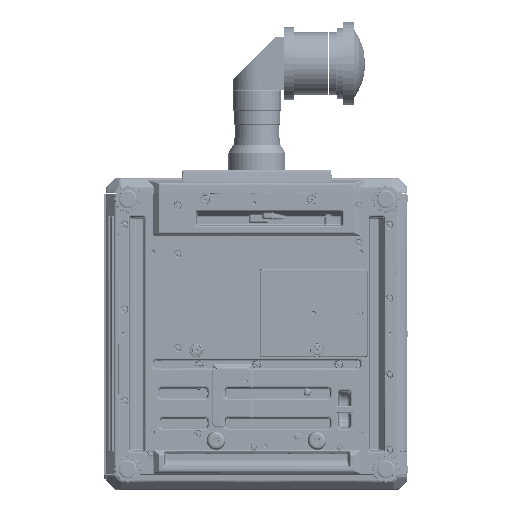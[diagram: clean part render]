
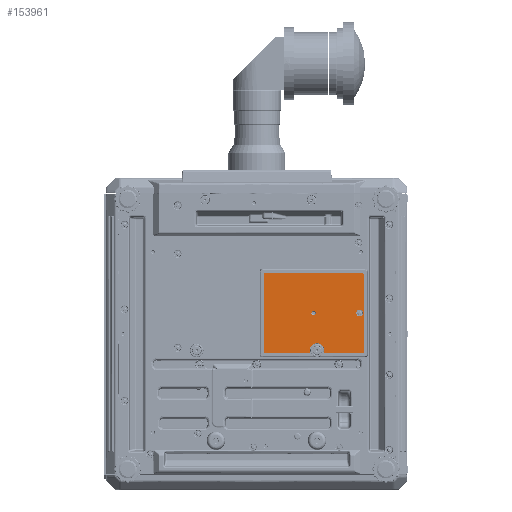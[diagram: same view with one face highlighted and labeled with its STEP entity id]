
A CAD part, front view. The second image highlights one B-rep face of the part: STEP entity #153961.
In plain terms, the highlighted planar face has unit normal (0, -1, 0).
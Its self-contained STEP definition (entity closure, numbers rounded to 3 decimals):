
#1032=ELLIPSE('',#323199,1.504,1.5);
#1033=ELLIPSE('',#323200,1.504,1.5);
#1034=ELLIPSE('',#323202,1.504,1.5);
#1035=ELLIPSE('',#323203,1.504,1.5);
#17031=B_SPLINE_CURVE_WITH_KNOTS('',3,(#457948,#457949,#457950,#457951,
#457952,#457953,#457954,#457955,#457956,#457957,#457958,#457959,#457960,
#457961,#457962,#457963,#457964,#457965,#457966),.UNSPECIFIED.,.F.,.F.,
(4,3,3,3,3,3,4),(0.,0.054,0.243,0.432,
0.621,0.811,1.),.UNSPECIFIED.);
#17032=B_SPLINE_CURVE_WITH_KNOTS('',3,(#457970,#457971,#457972,#457973,
#457974,#457975,#457976,#457977,#457978,#457979,#457980,#457981,#457982,
#457983,#457984,#457985,#457986,#457987,#457988),.UNSPECIFIED.,.F.,.F.,
(4,3,3,3,3,3,4),(0.,0.054,0.243,0.432,
0.621,0.811,1.),.UNSPECIFIED.);
#22756=PLANE('',#323204);
#39794=LINE('',#457937,#64510);
#39795=LINE('',#457942,#64511);
#39796=LINE('',#457946,#64512);
#39797=LINE('',#457990,#64513);
#39798=LINE('',#457994,#64514);
#64510=VECTOR('',#355327,1.);
#64511=VECTOR('',#355330,1.);
#64512=VECTOR('',#355333,1.);
#64513=VECTOR('',#355336,1.);
#64514=VECTOR('',#355339,1.);
#153961=ADVANCED_FACE('',(#163385,#163386,#163387),#22756,.F.);
#163385=FACE_BOUND('',#167030,.T.);
#163386=FACE_BOUND('',#167031,.T.);
#163387=FACE_BOUND('',#167032,.T.);
#167030=EDGE_LOOP('',(#188521));
#167031=EDGE_LOOP('',(#188522));
#167032=EDGE_LOOP('',(#188523,#188524,#188525,#188526,#188527,#188528,#188529,
#188530,#188531,#188532,#188533,#188534));
#188521=ORIENTED_EDGE('',*,*,#275534,.T.);
#188522=ORIENTED_EDGE('',*,*,#275535,.T.);
#188523=ORIENTED_EDGE('',*,*,#275536,.T.);
#188524=ORIENTED_EDGE('',*,*,#275537,.T.);
#188525=ORIENTED_EDGE('',*,*,#275538,.T.);
#188526=ORIENTED_EDGE('',*,*,#275539,.T.);
#188527=ORIENTED_EDGE('',*,*,#275540,.T.);
#188528=ORIENTED_EDGE('',*,*,#275541,.T.);
#188529=ORIENTED_EDGE('',*,*,#275542,.T.);
#188530=ORIENTED_EDGE('',*,*,#275543,.T.);
#188531=ORIENTED_EDGE('',*,*,#275544,.T.);
#188532=ORIENTED_EDGE('',*,*,#275545,.T.);
#188533=ORIENTED_EDGE('',*,*,#275546,.T.);
#188534=ORIENTED_EDGE('',*,*,#275547,.T.);
#238101=VERTEX_POINT('',#457933);
#238102=VERTEX_POINT('',#457936);
#238103=VERTEX_POINT('',#457938);
#238104=VERTEX_POINT('',#457939);
#238105=VERTEX_POINT('',#457941);
#238106=VERTEX_POINT('',#457943);
#238107=VERTEX_POINT('',#457945);
#238108=VERTEX_POINT('',#457947);
#238109=VERTEX_POINT('',#457967);
#238110=VERTEX_POINT('',#457969);
#238111=VERTEX_POINT('',#457989);
#238112=VERTEX_POINT('',#457991);
#238113=VERTEX_POINT('',#457993);
#238114=VERTEX_POINT('',#457995);
#275534=EDGE_CURVE('',#238101,#238101,#312295,.T.);
#275535=EDGE_CURVE('',#238102,#238102,#312296,.T.);
#275536=EDGE_CURVE('',#238103,#238104,#39794,.T.);
#275537=EDGE_CURVE('',#238104,#238105,#1032,.T.);
#275538=EDGE_CURVE('',#238105,#238106,#39795,.T.);
#275539=EDGE_CURVE('',#238106,#238107,#1033,.T.);
#275540=EDGE_CURVE('',#238107,#238108,#39796,.T.);
#275541=EDGE_CURVE('',#238108,#238109,#17031,.T.);
#275542=EDGE_CURVE('',#238109,#238110,#312297,.T.);
#275543=EDGE_CURVE('',#238110,#238111,#17032,.T.);
#275544=EDGE_CURVE('',#238111,#238112,#39797,.T.);
#275545=EDGE_CURVE('',#238112,#238113,#1034,.T.);
#275546=EDGE_CURVE('',#238113,#238114,#39798,.T.);
#275547=EDGE_CURVE('',#238114,#238103,#1035,.T.);
#312295=CIRCLE('',#323196,4.);
#312296=CIRCLE('',#323198,6.125);
#312297=CIRCLE('',#323201,13.358);
#323196=AXIS2_PLACEMENT_3D('',#457932,#355321,#355322);
#323198=AXIS2_PLACEMENT_3D('',#457935,#355325,#355326);
#323199=AXIS2_PLACEMENT_3D('',#457940,#355328,#355329);
#323200=AXIS2_PLACEMENT_3D('',#457944,#355331,#355332);
#323201=AXIS2_PLACEMENT_3D('',#457968,#355334,#355335);
#323202=AXIS2_PLACEMENT_3D('',#457992,#355337,#355338);
#323203=AXIS2_PLACEMENT_3D('',#457996,#355340,#355341);
#323204=AXIS2_PLACEMENT_3D('',#457997,#355342,#355343);
#355321=DIRECTION('',(0.,1.,0.));
#355322=DIRECTION('',(0.,0.,1.));
#355325=DIRECTION('',(0.,1.,0.));
#355326=DIRECTION('',(0.,0.,1.));
#355327=DIRECTION('',(-1.,0.,0.));
#355328=DIRECTION('',(0.,-1.,0.));
#355329=DIRECTION('',(0.707,0.,-0.707));
#355330=DIRECTION('',(0.,0.,-1.));
#355331=DIRECTION('',(0.,-1.,0.));
#355332=DIRECTION('',(-0.707,0.,-0.707));
#355333=DIRECTION('',(1.,0.,0.));
#355334=DIRECTION('',(0.,1.,0.));
#355335=DIRECTION('',(0.,0.,1.));
#355336=DIRECTION('',(1.,0.,0.));
#355337=DIRECTION('',(0.,-1.,0.));
#355338=DIRECTION('',(-0.707,0.,0.707));
#355339=DIRECTION('',(0.,0.,1.));
#355340=DIRECTION('',(0.,-1.,0.));
#355341=DIRECTION('',(-0.707,0.,-0.707));
#355342=DIRECTION('',(0.,1.,0.));
#355343=DIRECTION('',(0.,0.,1.));
#457932=CARTESIAN_POINT('',(103.8,-116.5,-1.5));
#457933=CARTESIAN_POINT('',(103.8,-116.5,2.5));
#457935=CARTESIAN_POINT('',(187.8,-116.5,-1.5));
#457936=CARTESIAN_POINT('',(187.8,-116.5,4.625));
#457937=CARTESIAN_POINT('',(110.,-116.5,71.642));
#457938=CARTESIAN_POINT('',(193.644,-116.5,71.642));
#457939=CARTESIAN_POINT('',(14.356,-116.5,71.642));
#457940=CARTESIAN_POINT('',(14.36,-116.5,70.14));
#457941=CARTESIAN_POINT('',(12.858,-116.5,70.144));
#457942=CARTESIAN_POINT('',(12.858,-116.5,-70.));
#457943=CARTESIAN_POINT('',(12.858,-116.5,-73.144));
#457944=CARTESIAN_POINT('',(14.36,-116.5,-73.14));
#457945=CARTESIAN_POINT('',(14.356,-116.5,-74.642));
#457946=CARTESIAN_POINT('',(110.,-116.5,-74.642));
#457947=CARTESIAN_POINT('',(95.481,-116.5,-74.642));
#457948=CARTESIAN_POINT('',(95.481,-116.5,-74.642));
#457949=CARTESIAN_POINT('',(95.529,-116.5,-74.642));
#457950=CARTESIAN_POINT('',(95.578,-116.5,-74.64));
#457951=CARTESIAN_POINT('',(95.627,-116.5,-74.635));
#457952=CARTESIAN_POINT('',(95.794,-116.5,-74.619));
#457953=CARTESIAN_POINT('',(95.96,-116.5,-74.574));
#457954=CARTESIAN_POINT('',(96.112,-116.5,-74.503));
#457955=CARTESIAN_POINT('',(96.264,-116.5,-74.433));
#457956=CARTESIAN_POINT('',(96.405,-116.5,-74.335));
#457957=CARTESIAN_POINT('',(96.525,-116.5,-74.219));
#457958=CARTESIAN_POINT('',(96.645,-116.5,-74.102));
#457959=CARTESIAN_POINT('',(96.747,-116.5,-73.963));
#457960=CARTESIAN_POINT('',(96.822,-116.5,-73.813));
#457961=CARTESIAN_POINT('',(96.897,-116.5,-73.662));
#457962=CARTESIAN_POINT('',(96.947,-116.5,-73.497));
#457963=CARTESIAN_POINT('',(96.967,-116.5,-73.33));
#457964=CARTESIAN_POINT('',(96.988,-116.5,-73.164));
#457965=CARTESIAN_POINT('',(96.98,-116.5,-72.991));
#457966=CARTESIAN_POINT('',(96.945,-116.5,-72.827));
#457967=CARTESIAN_POINT('',(96.945,-116.5,-72.827));
#457968=CARTESIAN_POINT('',(110.,-116.5,-70.));
#457969=CARTESIAN_POINT('',(123.055,-116.5,-72.827));
#457970=CARTESIAN_POINT('',(123.055,-116.5,-72.827));
#457971=CARTESIAN_POINT('',(123.045,-116.5,-72.875));
#457972=CARTESIAN_POINT('',(123.037,-116.5,-72.923));
#457973=CARTESIAN_POINT('',(123.031,-116.5,-72.972));
#457974=CARTESIAN_POINT('',(123.012,-116.5,-73.138));
#457975=CARTESIAN_POINT('',(123.021,-116.5,-73.31));
#457976=CARTESIAN_POINT('',(123.058,-116.5,-73.473));
#457977=CARTESIAN_POINT('',(123.094,-116.5,-73.637));
#457978=CARTESIAN_POINT('',(123.159,-116.5,-73.796));
#457979=CARTESIAN_POINT('',(123.248,-116.5,-73.938));
#457980=CARTESIAN_POINT('',(123.337,-116.5,-74.08));
#457981=CARTESIAN_POINT('',(123.451,-116.5,-74.209));
#457982=CARTESIAN_POINT('',(123.582,-116.5,-74.313));
#457983=CARTESIAN_POINT('',(123.713,-116.5,-74.418));
#457984=CARTESIAN_POINT('',(123.864,-116.5,-74.502));
#457985=CARTESIAN_POINT('',(124.023,-116.5,-74.558));
#457986=CARTESIAN_POINT('',(124.181,-116.5,-74.613));
#457987=CARTESIAN_POINT('',(124.351,-116.5,-74.642));
#457988=CARTESIAN_POINT('',(124.519,-116.5,-74.642));
#457989=CARTESIAN_POINT('',(124.519,-116.5,-74.642));
#457990=CARTESIAN_POINT('',(110.,-116.5,-74.642));
#457991=CARTESIAN_POINT('',(193.644,-116.5,-74.642));
#457992=CARTESIAN_POINT('',(193.64,-116.5,-73.14));
#457993=CARTESIAN_POINT('',(195.142,-116.5,-73.144));
#457994=CARTESIAN_POINT('',(195.142,-116.5,-70.));
#457995=CARTESIAN_POINT('',(195.142,-116.5,70.144));
#457996=CARTESIAN_POINT('',(193.64,-116.5,70.14));
#457997=CARTESIAN_POINT('',(110.,-116.5,-70.));
